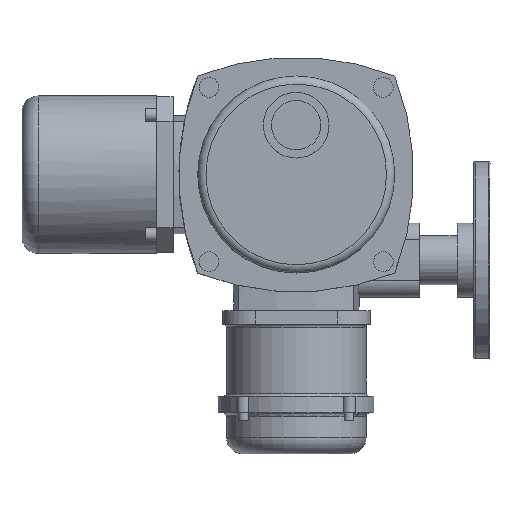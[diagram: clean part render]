
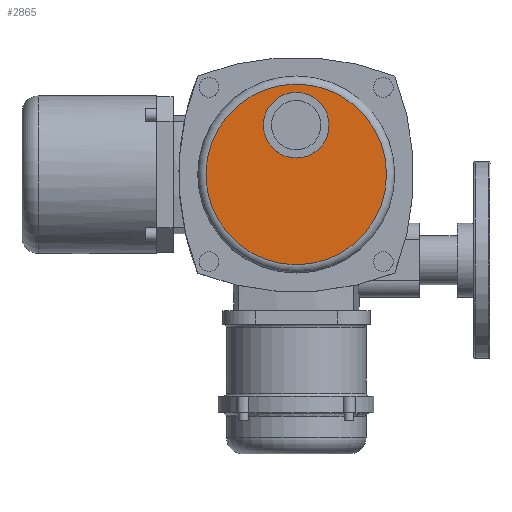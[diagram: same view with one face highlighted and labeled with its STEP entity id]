
A CAD part, top view. The second image highlights one B-rep face of the part: STEP entity #2865.
In plain terms, the highlighted planar face has unit normal (0, 0, 1).
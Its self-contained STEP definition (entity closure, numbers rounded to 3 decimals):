
#2865=ADVANCED_FACE('',(#5525,#5527),#5529,.T.);
#5525=FACE_BOUND('',#5526,.T.);
#5526=EDGE_LOOP('',(#7109));
#5527=FACE_BOUND('',#5528,.T.);
#5528=EDGE_LOOP('',(#7110));
#5529=PLANE('',#5530);
#5530=AXIS2_PLACEMENT_3D('',#5531,#5532,#5533);
#5531=CARTESIAN_POINT('',(5.,-8.,270.));
#5532=DIRECTION('',(0.,0.,1.));
#5533=DIRECTION('',(1.,0.,0.));
#7109=ORIENTED_EDGE('',*,*,#7828,.T.);
#7110=ORIENTED_EDGE('',*,*,#7889,.F.);
#7828=EDGE_CURVE('',#9008,#9008,#9009,.T.);
#7889=EDGE_CURVE('',#9100,#9100,#9101,.T.);
#9008=VERTEX_POINT('',#14185);
#9009=CIRCLE('',#14186,55.);
#9100=VERTEX_POINT('',#14442);
#9101=CIRCLE('',#14443,20.);
#14185=CARTESIAN_POINT('',(60.,-8.,270.));
#14186=AXIS2_PLACEMENT_3D('',#14187,#14188,#14189);
#14187=CARTESIAN_POINT('',(5.,-8.,270.));
#14188=DIRECTION('',(0.,0.,1.));
#14189=DIRECTION('',(1.,0.,0.));
#14442=CARTESIAN_POINT('',(25.,22.,270.));
#14443=AXIS2_PLACEMENT_3D('',#14444,#14445,#14446);
#14444=CARTESIAN_POINT('',(5.,22.,270.));
#14445=DIRECTION('',(0.,0.,1.));
#14446=DIRECTION('',(1.,0.,0.));
